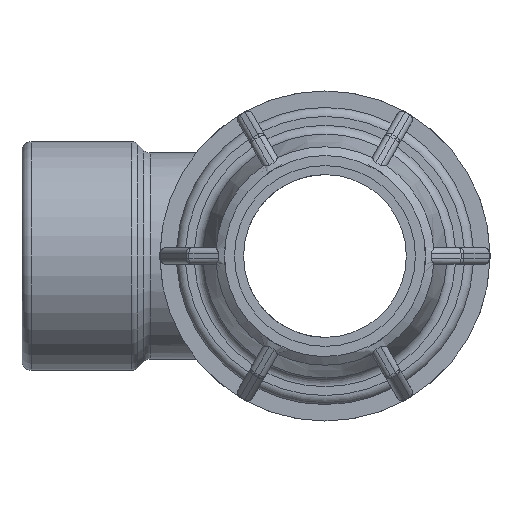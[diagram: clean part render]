
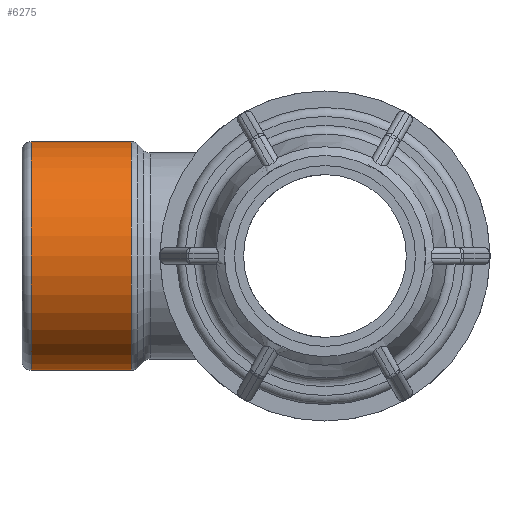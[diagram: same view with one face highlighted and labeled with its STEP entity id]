
A CAD part, left-side view. The second image highlights one B-rep face of the part: STEP entity #6275.
In plain terms, the highlighted cylindrical face has radius 25.319 mm (diameter 50.638 mm), a full revolution.
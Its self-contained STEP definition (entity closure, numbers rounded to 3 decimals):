
#1262=FACE_BOUND('',#2115,.T.);
#1672=FACE_OUTER_BOUND('',#2114,.T.);
#2114=EDGE_LOOP('',(#5734));
#2115=EDGE_LOOP('',(#5735));
#2467=CIRCLE('',#7026,25.319);
#2469=CIRCLE('',#7029,25.319);
#3007=VERTEX_POINT('',#11964);
#3009=VERTEX_POINT('',#11969);
#3919=EDGE_CURVE('',#3007,#3007,#2467,.T.);
#3921=EDGE_CURVE('',#3009,#3009,#2469,.T.);
#5734=ORIENTED_EDGE('',*,*,#3921,.F.);
#5735=ORIENTED_EDGE('',*,*,#3919,.F.);
#5870=CYLINDRICAL_SURFACE('',#7028,25.319);
#6275=ADVANCED_FACE('',(#1672,#1262),#5870,.T.);
#7026=AXIS2_PLACEMENT_3D('',#11965,#8886,#8887);
#7028=AXIS2_PLACEMENT_3D('',#11968,#8890,#8891);
#7029=AXIS2_PLACEMENT_3D('',#11970,#8892,#8893);
#8886=DIRECTION('center_axis',(0.,1.,0.));
#8887=DIRECTION('ref_axis',(1.,0.,0.));
#8890=DIRECTION('center_axis',(0.,1.,0.));
#8891=DIRECTION('ref_axis',(-1.,0.,0.));
#8892=DIRECTION('center_axis',(0.,-1.,0.));
#8893=DIRECTION('ref_axis',(1.,0.,0.));
#11964=CARTESIAN_POINT('',(-25.319,65.,0.));
#11965=CARTESIAN_POINT('Origin',(0.,65.,0.));
#11968=CARTESIAN_POINT('Origin',(0.,54.5,0.));
#11969=CARTESIAN_POINT('',(-25.319,42.828,0.));
#11970=CARTESIAN_POINT('Origin',(0.,42.828,0.));
